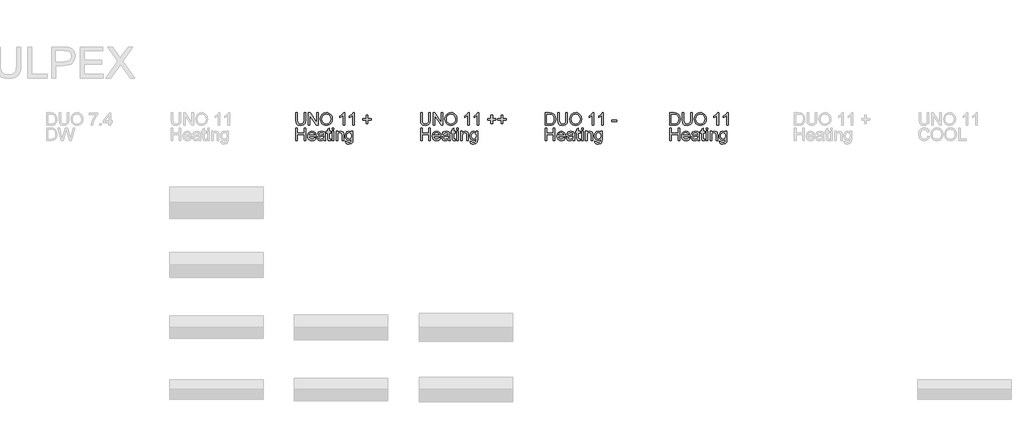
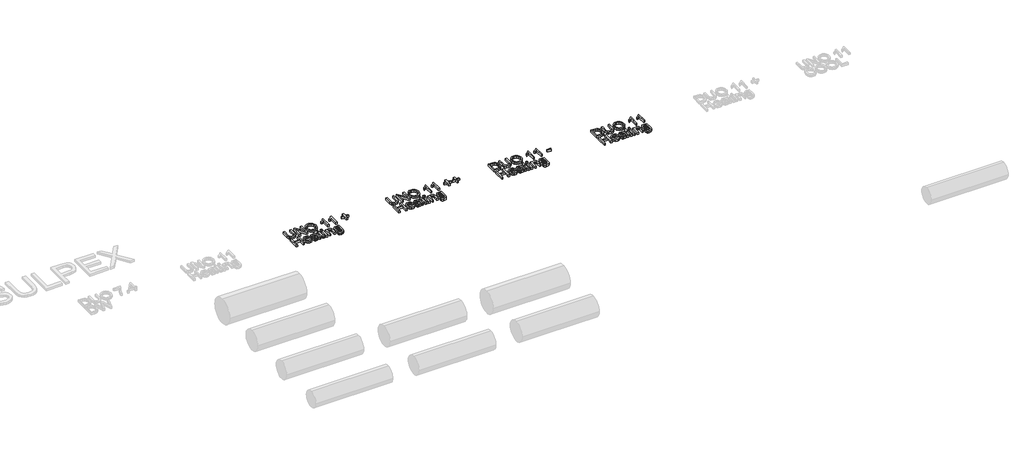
# One storey, part 35 of 44: 4 proxies.
"""IFC4 building model written with IfcOpenShell, lengths in millimetres."""

from ifc_helpers import new_model, si_unit, origin, origin_with_axes, place, context, project, spatial, polyline, outline, extrude, element, save

model = new_model("IFC4")

# Units and contexts
model_context = context("Model", 3, world=origin())
ifc_project = project(units=[si_unit("LENGTHUNIT", "METRE", prefix="MILLI")], contexts=[model_context])

# Site, building, storey
site = spatial("IfcSite", under=ifc_project)
building = spatial("IfcBuilding", under=site)
storey = spatial("IfcBuildingStorey", under=building, Name="REHAU Starting view", Elevation=0.0)

# Proxies
placement = place(None, origin())
element("IfcBuildingElementProxy", 1, Name="100", ObjectType="100", at=placement, inside=storey, context=model_context, shape_type="SweptSolid", body=[
    extrude(outline(polyline([(19076.9118625, 20222.431128), (19089.4689012, 20222.431128), (19089.4689012, 20164.477451), (19086.0598614, 20140.4547567), (19073.7726028, 20125.9847316), (19063.5086951, 20121.8000739), (19050.4734097, 20120.405188), (19027.529836, 20125.2612303), (19019.8901532, 20131.2055902), (19014.8011189, 20139.3265853), (19010.9874089, 20164.477451), (19010.9874089, 20222.431128), (19023.5444477, 20222.431128), (19023.5444477, 20164.9189094), (19026.0215198, 20145.7767829), (19034.5318566, 20136.2976902), (19049.2961874, 20132.9622268), (19062.067824, 20134.6115644), (19070.5597667, 20139.5595772), (19075.3238385, 20149.1980855), (19076.9118625, 20164.9189094), (19076.9118625, 20222.431128)])), origin_with_axes(), (0.0, 0.0, 1.0), 20.0),
    extrude(outline(polyline([(19111.4437191, 20121.9748178), (19111.4437191, 20222.431128), (19124.8836746, 20222.431128), (19177.3681726, 20142.8459897), (19177.3681726, 20222.431128), (19189.9252114, 20222.431128), (19189.9252114, 20121.9748178), (19176.4852558, 20121.9748178), (19124.0007578, 20201.5844816), (19124.0007578, 20121.9748178), (19111.4437191, 20121.9748178)])), origin_with_axes(), (0.0, 0.0, 1.0), 20.0),
    extrude(outline(polyline([(19207.1911397, 20170.8785977), (19210.5388658, 20193.0925389), (19220.5820443, 20209.8986147), (19235.9165921, 20220.4752221), (19255.1384264, 20224.0007578), (19268.3147332, 20222.3452889), (19280.1298766, 20217.3788819), (19289.9400631, 20209.4510249), (19297.1014993, 20198.9112058), (19301.479295, 20186.2683279), (19302.9385603, 20172.0312947), (19301.402653, 20157.6041891), (19296.794931, 20144.7835015), (19289.369846, 20134.2252883), (19279.3818499, 20126.5856055), (19267.667874, 20121.9502924), (19255.06485, 20120.405188), (19241.6862081, 20122.1127736), (19229.8036197, 20127.2355304), (19220.0179586, 20135.3105402), (19212.9300988, 20145.8748848), (19207.1911397, 20170.8785977)]), holes=[polyline([(19219.7481785, 20170.7559704), (19222.2589731, 20155.0412778), (19229.7913569, 20143.0667189), (19241.1129253, 20135.4883498), (19254.9912736, 20132.9622268), (19269.071957, 20135.5128753), (19280.4119195, 20143.1648208), (19287.889121, 20155.5072617), (19290.3815215, 20172.1293965), (19286.1140904, 20192.8534156), (19273.6428907, 20206.575414), (19255.2120028, 20211.4437191), (19241.7046022, 20209.0984714), (19230.2205526, 20202.0627282), (19222.366272, 20189.5455433), (19219.7481785, 20170.7559704)])]), origin_with_axes(), (0.0, 0.0, 1.0), 20.0),
    extrude(outline(polyline([(19401.8252406, 20121.9748178), (19389.2682018, 20121.9748178), (19389.2682018, 20200.2601064), (19377.3733507, 20191.7865578), (19364.1541243, 20185.4467247), (19364.1541243, 20197.3170505), (19382.5604868, 20209.0647488), (19393.7318367, 20222.431128), (19401.8252406, 20222.431128), (19401.8252406, 20121.9748178)])), origin_with_axes(), (0.0, 0.0, 1.0), 20.0),
    extrude(outline(polyline([(19478.7371031, 20121.9748178), (19466.1800643, 20121.9748178), (19466.1800643, 20200.2601064), (19454.2852131, 20191.7865578), (19441.0659868, 20185.4467247), (19441.0659868, 20197.3170505), (19459.4723492, 20209.0647488), (19470.6436992, 20222.431128), (19478.7371031, 20222.431128), (19478.7371031, 20121.9748178)])), origin_with_axes(), (0.0, 0.0, 1.0), 20.0),
    extrude(outline(polyline([(19576.0541535, 20137.6711163), (19576.0541535, 20164.3548237), (19549.3704461, 20164.3548237), (19549.3704461, 20176.9118625), (19576.0541535, 20176.9118625), (19576.0541535, 20203.5955698), (19588.6111923, 20203.5955698), (19588.6111923, 20176.9118625), (19615.2948997, 20176.9118625), (19615.2948997, 20164.3548237), (19588.6111923, 20164.3548237), (19588.6111923, 20137.6711163), (19576.0541535, 20137.6711163)])), origin_with_axes(), (0.0, 0.0, 1.0), 20.0),
    extrude(outline(polyline([(19010.9874089, 20000.0), (19010.9874089, 20100.4563101), (19023.5444477, 20100.4563101), (19023.5444477, 20059.6459342), (19076.9118625, 20059.6459342), (19076.9118625, 20100.4563101), (19089.4689012, 20100.4563101), (19089.4689012, 20000.0), (19076.9118625, 20000.0), (19076.9118625, 20047.0888954), (19023.5444477, 20047.0888954), (19023.5444477, 20000.0), (19010.9874089, 20000.0)])), origin_with_axes(), (0.0, 0.0, 1.0), 20.0),
    extrude(outline(polyline([(19161.5247213, 20021.9748178), (19173.8365055, 20020.405188), (19169.4004617, 20011.1284304), (19162.321799, 20004.1938547), (19152.7599328, 19999.8712413), (19140.8742787, 19998.4303702), (19126.1406048, 20000.9166393), (19114.803708, 20008.3754468), (19107.5748268, 20020.3224146), (19105.1651997, 20036.2731647), (19107.5993522, 20052.7604095), (19114.9018098, 20065.0905877), (19126.0854225, 20072.7793214), (19140.1630402, 20075.3422326), (19153.8022651, 20072.7854527), (19164.7007692, 20065.1151131), (19171.846877, 20052.8094604), (19174.2289129, 20036.3467411), (19174.1553365, 20032.9622268), (19117.7222385, 20032.9622268), (19119.8958079, 20023.5628418), (19124.9449883, 20016.6527916), (19132.2321175, 20012.4037546), (19141.1195333, 20010.9874089), (19153.4313175, 20013.6116338), (19161.5247213, 20021.9748178)]), holes=[polyline([(19117.7222385, 20045.5192655), (19161.6718741, 20045.5192655), (19156.6441535, 20056.8990819), (19149.3233018, 20061.3136659), (19140.1139892, 20062.7851938), (19124.6506827, 20058.088567), (19119.7854433, 20052.5979283), (19117.7222385, 20045.5192655)])]), origin_with_axes(), (0.0, 0.0, 1.0), 20.0),
    extrude(outline(polyline([(19233.8748471, 20009.4177791), (19221.697953, 20000.9074423), (19208.2457347, 19998.4303702), (19197.7519008, 19999.9202922), (19190.0110505, 20004.3900585), (19185.2377816, 20011.1774813), (19183.646692, 20019.6203731), (19186.0501877, 20029.5531869), (19192.3654953, 20036.7636741), (19201.157875, 20040.8839524), (19212.0226566, 20042.7724133), (19233.8012707, 20047.0888954), (19233.8748471, 20049.8847985), (19230.4167563, 20059.1554248), (19216.5353424, 20062.7851938), (19203.8311508, 20060.3694354), (19197.7733606, 20051.7977849), (19185.2163218, 20053.3674148), (19190.6487126, 20065.6301479), (19201.5870706, 20072.8161096), (19218.1540231, 20075.3422326), (19233.372075, 20073.1104152), (19241.968251, 20067.5063461), (19245.8187492, 20058.9837466), (19246.4318858, 20047.9963376), (19246.4318858, 20032.3736156), (19247.069548, 20010.5582133), (19249.5711455, 20000.0), (19237.0141068, 20000.0), (19233.8748471, 20009.4177791)]), holes=[polyline([(19233.8748471, 20034.5318566), (19213.6168119, 20030.6813584), (19202.8133439, 20028.6457447), (19197.9205134, 20025.3348067), (19196.2037308, 20020.5032899), (19199.9438644, 20013.7097357), (19210.9190106, 20010.9874089), (19223.6232021, 20013.9917785), (19231.8147079, 20021.2635793), (19233.8012707, 20030.975664), (19233.8748471, 20034.5318566)])]), origin_with_axes(), (0.0, 0.0, 1.0), 20.0),
    extrude(outline(polyline([(19290.3815215, 20010.4723741), (19291.9511514, 19999.632118), (19282.5578978, 19998.4303702), (19272.0364727, 20000.5150348), (19266.7880229, 20005.9842138), (19265.267444, 20020.2335097), (19265.267444, 20061.215564), (19255.8496649, 20061.215564), (19255.8496649, 20073.7726028), (19265.267444, 20073.7726028), (19265.267444, 20091.7007187), (19277.8244828, 20099.082884), (19277.8244828, 20073.7726028), (19290.3815215, 20073.7726028), (19290.3815215, 20061.215564), (19277.8244828, 20061.215564), (19277.8244828, 20020.6013917), (19278.4866703, 20014.1266686), (19280.6326487, 20011.8335375), (19284.9123425, 20010.9874089), (19290.3815215, 20010.4723741)])), origin_with_axes(), (0.0, 0.0, 1.0), 20.0),
    extrude(outline(polyline([(19302.9385603, 20087.8992714), (19302.9385603, 20100.4563101), (19315.4955991, 20100.4563101), (19315.4955991, 20087.8992714), (19302.9385603, 20087.8992714)])), origin_with_axes(), (0.0, 0.0, 1.0), 20.0),
    extrude(outline(polyline([(19302.9385603, 20000.0), (19302.9385603, 20073.7726028), (19315.4955991, 20073.7726028), (19315.4955991, 20000.0), (19302.9385603, 20000.0)])), origin_with_axes(), (0.0, 0.0, 1.0), 20.0),
    extrude(outline(polyline([(19334.3311572, 20000.0), (19334.3311572, 20073.7726028), (19346.888196, 20073.7726028), (19346.888196, 20063.4719069), (19356.4899161, 20072.3746512), (19369.5987778, 20075.3422326), (19381.4568408, 20072.9509996), (19389.5502447, 20066.6724803), (19393.3149038, 20057.4386422), (19393.9770914, 20045.2985363), (19393.9770914, 20000.0), (19381.4200526, 20000.0), (19381.4200526, 20043.6062792), (19379.9730501, 20054.7163154), (19374.8594904, 20060.5901646), (19366.2387889, 20062.7851938), (19352.6148924, 20057.8555751), (19348.3198701, 20050.712533), (19346.888196, 20039.1426443), (19346.888196, 20000.0), (19334.3311572, 20000.0)])), origin_with_axes(), (0.0, 0.0, 1.0), 20.0),
    extrude(outline(polyline([(19408.10376, 19993.7214806), (19420.6607988, 19992.1518508), (19424.7320262, 19985.5299749), (19436.9211829, 19982.7340717), (19449.7725273, 19985.8978569), (19455.9038939, 19994.7760757), (19456.7622852, 20009.4177791), (19447.9208546, 20002.3544448), (19437.1419121, 20000.0), (19424.1955316, 20002.7407209), (19414.5416949, 20010.9628835), (19408.5360213, 20023.0171502), (19406.5341301, 20037.2541834), (19410.127111, 20056.7151409), (19420.5259087, 20070.4861903), (19436.5287755, 20075.3422326), (19447.7307822, 20072.5953804), (19456.7622852, 20064.3548237), (19456.7622852, 20073.7726028), (19469.319324, 20073.7726028), (19469.319324, 20010.0799667), (19465.8857587, 19985.6893904), (19455.0087144, 19974.3463622), (19436.6759283, 19970.1770329), (19424.9926092, 19971.6454952), (19415.7924937, 19976.0508821), (19409.8910533, 19983.4054563), (19408.10376, 19993.7214806)]), holes=[polyline([(19419.0911689, 20038.1125747), (19420.4308725, 20026.5948026), (19424.4499833, 20018.6761426), (19430.4924451, 20014.0868147), (19437.9022016, 20012.5570388), (19445.2567758, 20014.0776177), (19451.3298944, 20018.6393544), (19455.4041875, 20026.4568468), (19456.7622852, 20037.7446927), (19455.3643336, 20048.6309341), (19451.1704789, 20056.4698863), (19445.0084555, 20061.2063669), (19437.7059979, 20062.7851938), (19430.5353646, 20061.2308924), (19424.5235597, 20056.5679881), (19420.4492666, 20048.8455319), (19419.0911689, 20038.1125747)])]), origin_with_axes(), (0.0, 0.0, 1.0), 20.0),
])
element("IfcBuildingElementProxy", 2, Name="100", ObjectType="100", at=placement, inside=storey, context=model_context, shape_type="SweptSolid", body=[
    extrude(outline(polyline([(20076.9118625, 20222.431128), (20089.4689012, 20222.431128), (20089.4689012, 20164.477451), (20086.0598614, 20140.4547567), (20073.7726028, 20125.9847316), (20063.5086951, 20121.8000739), (20050.4734097, 20120.405188), (20027.529836, 20125.2612303), (20019.8901532, 20131.2055902), (20014.8011189, 20139.3265853), (20010.9874089, 20164.477451), (20010.9874089, 20222.431128), (20023.5444477, 20222.431128), (20023.5444477, 20164.9189094), (20026.0215198, 20145.7767829), (20034.5318566, 20136.2976902), (20049.2961874, 20132.9622268), (20062.067824, 20134.6115644), (20070.5597667, 20139.5595772), (20075.3238385, 20149.1980855), (20076.9118625, 20164.9189094), (20076.9118625, 20222.431128)])), origin_with_axes(), (0.0, 0.0, 1.0), 20.0),
    extrude(outline(polyline([(20111.4437191, 20121.9748178), (20111.4437191, 20222.431128), (20124.8836746, 20222.431128), (20177.3681726, 20142.8459897), (20177.3681726, 20222.431128), (20189.9252114, 20222.431128), (20189.9252114, 20121.9748178), (20176.4852558, 20121.9748178), (20124.0007578, 20201.5844816), (20124.0007578, 20121.9748178), (20111.4437191, 20121.9748178)])), origin_with_axes(), (0.0, 0.0, 1.0), 20.0),
    extrude(outline(polyline([(20207.1911397, 20170.8785977), (20210.5388658, 20193.0925389), (20220.5820443, 20209.8986147), (20235.9165921, 20220.4752221), (20255.1384264, 20224.0007578), (20268.3147332, 20222.3452889), (20280.1298766, 20217.3788819), (20289.9400631, 20209.4510249), (20297.1014993, 20198.9112058), (20301.479295, 20186.2683279), (20302.9385603, 20172.0312947), (20301.402653, 20157.6041891), (20296.794931, 20144.7835015), (20289.369846, 20134.2252883), (20279.3818499, 20126.5856055), (20267.667874, 20121.9502924), (20255.06485, 20120.405188), (20241.6862081, 20122.1127736), (20229.8036197, 20127.2355304), (20220.0179586, 20135.3105402), (20212.9300988, 20145.8748848), (20207.1911397, 20170.8785977)]), holes=[polyline([(20219.7481785, 20170.7559704), (20222.2589731, 20155.0412778), (20229.7913569, 20143.0667189), (20241.1129253, 20135.4883498), (20254.9912736, 20132.9622268), (20269.071957, 20135.5128753), (20280.4119195, 20143.1648208), (20287.889121, 20155.5072617), (20290.3815215, 20172.1293965), (20286.1140904, 20192.8534156), (20273.6428907, 20206.575414), (20255.2120028, 20211.4437191), (20241.7046022, 20209.0984714), (20230.2205526, 20202.0627282), (20222.366272, 20189.5455433), (20219.7481785, 20170.7559704)])]), origin_with_axes(), (0.0, 0.0, 1.0), 20.0),
    extrude(outline(polyline([(20401.8252406, 20121.9748178), (20389.2682018, 20121.9748178), (20389.2682018, 20200.2601064), (20377.3733507, 20191.7865578), (20364.1541243, 20185.4467247), (20364.1541243, 20197.3170505), (20382.5604868, 20209.0647488), (20393.7318367, 20222.431128), (20401.8252406, 20222.431128), (20401.8252406, 20121.9748178)])), origin_with_axes(), (0.0, 0.0, 1.0), 20.0),
    extrude(outline(polyline([(20478.7371031, 20121.9748178), (20466.1800643, 20121.9748178), (20466.1800643, 20200.2601064), (20454.2852131, 20191.7865578), (20441.0659868, 20185.4467247), (20441.0659868, 20197.3170505), (20459.4723492, 20209.0647488), (20470.6436992, 20222.431128), (20478.7371031, 20222.431128), (20478.7371031, 20121.9748178)])), origin_with_axes(), (0.0, 0.0, 1.0), 20.0),
    extrude(outline(polyline([(20576.0541535, 20137.6711163), (20576.0541535, 20164.3548237), (20549.3704461, 20164.3548237), (20549.3704461, 20176.9118625), (20576.0541535, 20176.9118625), (20576.0541535, 20203.5955698), (20588.6111923, 20203.5955698), (20588.6111923, 20176.9118625), (20615.2948997, 20176.9118625), (20615.2948997, 20164.3548237), (20588.6111923, 20164.3548237), (20588.6111923, 20137.6711163), (20576.0541535, 20137.6711163)])), origin_with_axes(), (0.0, 0.0, 1.0), 20.0),
    extrude(outline(polyline([(20657.6749055, 20137.6711163), (20657.6749055, 20164.3548237), (20630.9911981, 20164.3548237), (20630.9911981, 20176.9118625), (20657.6749055, 20176.9118625), (20657.6749055, 20203.5955698), (20670.2319443, 20203.5955698), (20670.2319443, 20176.9118625), (20696.9156517, 20176.9118625), (20696.9156517, 20164.3548237), (20670.2319443, 20164.3548237), (20670.2319443, 20137.6711163), (20657.6749055, 20137.6711163)])), origin_with_axes(), (0.0, 0.0, 1.0), 20.0),
    extrude(outline(polyline([(20010.9874089, 20000.0), (20010.9874089, 20100.4563101), (20023.5444477, 20100.4563101), (20023.5444477, 20059.6459342), (20076.9118625, 20059.6459342), (20076.9118625, 20100.4563101), (20089.4689012, 20100.4563101), (20089.4689012, 20000.0), (20076.9118625, 20000.0), (20076.9118625, 20047.0888954), (20023.5444477, 20047.0888954), (20023.5444477, 20000.0), (20010.9874089, 20000.0)])), origin_with_axes(), (0.0, 0.0, 1.0), 20.0),
    extrude(outline(polyline([(20161.5247213, 20021.9748178), (20173.8365055, 20020.405188), (20169.4004617, 20011.1284304), (20162.321799, 20004.1938547), (20152.7599328, 19999.8712413), (20140.8742787, 19998.4303702), (20126.1406048, 20000.9166393), (20114.803708, 20008.3754468), (20107.5748268, 20020.3224146), (20105.1651997, 20036.2731647), (20107.5993522, 20052.7604095), (20114.9018098, 20065.0905877), (20126.0854225, 20072.7793214), (20140.1630402, 20075.3422326), (20153.8022651, 20072.7854527), (20164.7007692, 20065.1151131), (20171.846877, 20052.8094604), (20174.2289129, 20036.3467411), (20174.1553365, 20032.9622268), (20117.7222385, 20032.9622268), (20119.8958079, 20023.5628418), (20124.9449883, 20016.6527916), (20132.2321175, 20012.4037546), (20141.1195333, 20010.9874089), (20153.4313175, 20013.6116338), (20161.5247213, 20021.9748178)]), holes=[polyline([(20117.7222385, 20045.5192655), (20161.6718741, 20045.5192655), (20156.6441535, 20056.8990819), (20149.3233018, 20061.3136659), (20140.1139892, 20062.7851938), (20124.6506827, 20058.088567), (20119.7854433, 20052.5979283), (20117.7222385, 20045.5192655)])]), origin_with_axes(), (0.0, 0.0, 1.0), 20.0),
    extrude(outline(polyline([(20233.8748471, 20009.4177791), (20221.697953, 20000.9074423), (20208.2457347, 19998.4303702), (20197.7519008, 19999.9202922), (20190.0110505, 20004.3900585), (20185.2377816, 20011.1774813), (20183.646692, 20019.6203731), (20186.0501877, 20029.5531869), (20192.3654953, 20036.7636741), (20201.157875, 20040.8839524), (20212.0226566, 20042.7724133), (20233.8012707, 20047.0888954), (20233.8748471, 20049.8847985), (20230.4167563, 20059.1554248), (20216.5353424, 20062.7851938), (20203.8311508, 20060.3694354), (20197.7733606, 20051.7977849), (20185.2163218, 20053.3674148), (20190.6487126, 20065.6301479), (20201.5870706, 20072.8161096), (20218.1540231, 20075.3422326), (20233.372075, 20073.1104152), (20241.968251, 20067.5063461), (20245.8187492, 20058.9837466), (20246.4318858, 20047.9963376), (20246.4318858, 20032.3736156), (20247.069548, 20010.5582133), (20249.5711455, 20000.0), (20237.0141068, 20000.0), (20233.8748471, 20009.4177791)]), holes=[polyline([(20233.8748471, 20034.5318566), (20213.6168119, 20030.6813584), (20202.8133439, 20028.6457447), (20197.9205134, 20025.3348067), (20196.2037308, 20020.5032899), (20199.9438644, 20013.7097357), (20210.9190106, 20010.9874089), (20223.6232021, 20013.9917785), (20231.8147079, 20021.2635793), (20233.8012707, 20030.975664), (20233.8748471, 20034.5318566)])]), origin_with_axes(), (0.0, 0.0, 1.0), 20.0),
    extrude(outline(polyline([(20290.3815215, 20010.4723741), (20291.9511514, 19999.632118), (20282.5578978, 19998.4303702), (20272.0364727, 20000.5150348), (20266.7880229, 20005.9842138), (20265.267444, 20020.2335097), (20265.267444, 20061.215564), (20255.8496649, 20061.215564), (20255.8496649, 20073.7726028), (20265.267444, 20073.7726028), (20265.267444, 20091.7007187), (20277.8244828, 20099.082884), (20277.8244828, 20073.7726028), (20290.3815215, 20073.7726028), (20290.3815215, 20061.215564), (20277.8244828, 20061.215564), (20277.8244828, 20020.6013917), (20278.4866703, 20014.1266686), (20280.6326487, 20011.8335375), (20284.9123425, 20010.9874089), (20290.3815215, 20010.4723741)])), origin_with_axes(), (0.0, 0.0, 1.0), 20.0),
    extrude(outline(polyline([(20302.9385603, 20087.8992714), (20302.9385603, 20100.4563101), (20315.4955991, 20100.4563101), (20315.4955991, 20087.8992714), (20302.9385603, 20087.8992714)])), origin_with_axes(), (0.0, 0.0, 1.0), 20.0),
    extrude(outline(polyline([(20302.9385603, 20000.0), (20302.9385603, 20073.7726028), (20315.4955991, 20073.7726028), (20315.4955991, 20000.0), (20302.9385603, 20000.0)])), origin_with_axes(), (0.0, 0.0, 1.0), 20.0),
    extrude(outline(polyline([(20334.3311572, 20000.0), (20334.3311572, 20073.7726028), (20346.888196, 20073.7726028), (20346.888196, 20063.4719069), (20356.4899161, 20072.3746512), (20369.5987778, 20075.3422326), (20381.4568408, 20072.9509996), (20389.5502447, 20066.6724803), (20393.3149038, 20057.4386422), (20393.9770914, 20045.2985363), (20393.9770914, 20000.0), (20381.4200526, 20000.0), (20381.4200526, 20043.6062792), (20379.9730501, 20054.7163154), (20374.8594904, 20060.5901646), (20366.2387889, 20062.7851938), (20352.6148924, 20057.8555751), (20348.3198701, 20050.712533), (20346.888196, 20039.1426443), (20346.888196, 20000.0), (20334.3311572, 20000.0)])), origin_with_axes(), (0.0, 0.0, 1.0), 20.0),
    extrude(outline(polyline([(20408.10376, 19993.7214806), (20420.6607988, 19992.1518508), (20424.7320262, 19985.5299749), (20436.9211829, 19982.7340717), (20449.7725273, 19985.8978569), (20455.9038939, 19994.7760757), (20456.7622852, 20009.4177791), (20447.9208546, 20002.3544448), (20437.1419121, 20000.0), (20424.1955316, 20002.7407209), (20414.5416949, 20010.9628835), (20408.5360213, 20023.0171502), (20406.5341301, 20037.2541834), (20410.127111, 20056.7151409), (20420.5259087, 20070.4861903), (20436.5287755, 20075.3422326), (20447.7307822, 20072.5953804), (20456.7622852, 20064.3548237), (20456.7622852, 20073.7726028), (20469.319324, 20073.7726028), (20469.319324, 20010.0799667), (20465.8857587, 19985.6893904), (20455.0087144, 19974.3463622), (20436.6759283, 19970.1770329), (20424.9926092, 19971.6454952), (20415.7924937, 19976.0508821), (20409.8910533, 19983.4054563), (20408.10376, 19993.7214806)]), holes=[polyline([(20419.0911689, 20038.1125747), (20420.4308725, 20026.5948026), (20424.4499833, 20018.6761426), (20430.4924451, 20014.0868147), (20437.9022016, 20012.5570388), (20445.2567758, 20014.0776177), (20451.3298944, 20018.6393544), (20455.4041875, 20026.4568468), (20456.7622852, 20037.7446927), (20455.3643336, 20048.6309341), (20451.1704789, 20056.4698863), (20445.0084555, 20061.2063669), (20437.7059979, 20062.7851938), (20430.5353646, 20061.2308924), (20424.5235597, 20056.5679881), (20420.4492666, 20048.8455319), (20419.0911689, 20038.1125747)])]), origin_with_axes(), (0.0, 0.0, 1.0), 20.0),
])
element("IfcBuildingElementProxy", 3, Name="100", ObjectType="100", at=placement, inside=storey, context=model_context, shape_type="SweptSolid", body=[
    extrude(outline(polyline([(22010.9874089, 20121.9748178), (22010.9874089, 20222.431128), (22045.6418929, 20222.431128), (22063.5700088, 20220.9841255), (22078.3343395, 20213.7981638), (22090.2291907, 20196.6303374), (22094.1777908, 20172.7425332), (22091.5045149, 20152.4722352), (22084.6373844, 20137.8427946), (22075.4648599, 20128.7315838), (22063.4596442, 20123.6916005), (22047.3096246, 20121.9748178), (22010.9874089, 20121.9748178)]), holes=[polyline([(22023.5444477, 20134.5318566), (22045.7645202, 20134.5318566), (22061.9268025, 20136.3467411), (22071.2464797, 20141.4725636), (22078.8861625, 20153.9437632), (22081.620752, 20172.9387369), (22080.2810484, 20186.6239471), (22076.2619376, 20196.7284393), (22063.2266522, 20207.863001), (22045.4211637, 20209.8740892), (22023.5444477, 20209.8740892), (22023.5444477, 20134.5318566)])]), origin_with_axes(), (0.0, 0.0, 1.0), 20.0),
    extrude(outline(polyline([(22177.3681726, 20222.431128), (22189.9252114, 20222.431128), (22189.9252114, 20164.477451), (22186.5161716, 20140.4547567), (22174.2289129, 20125.9847316), (22163.9650053, 20121.8000739), (22150.9297199, 20120.405188), (22127.9861461, 20125.2612303), (22120.3464634, 20131.2055902), (22115.2574291, 20139.3265853), (22111.4437191, 20164.477451), (22111.4437191, 20222.431128), (22124.0007578, 20222.431128), (22124.0007578, 20164.9189094), (22126.4778299, 20145.7767829), (22134.9881668, 20136.2976902), (22149.7524975, 20132.9622268), (22162.5241341, 20134.6115644), (22171.0160768, 20139.5595772), (22175.7801487, 20149.1980855), (22177.3681726, 20164.9189094), (22177.3681726, 20222.431128)])), origin_with_axes(), (0.0, 0.0, 1.0), 20.0),
    extrude(outline(polyline([(22207.1911397, 20170.8785977), (22210.5388658, 20193.0925389), (22220.5820443, 20209.8986147), (22235.9165921, 20220.4752221), (22255.1384264, 20224.0007578), (22268.3147332, 20222.3452889), (22280.1298766, 20217.3788819), (22289.9400631, 20209.4510249), (22297.1014993, 20198.9112058), (22301.479295, 20186.2683279), (22302.9385603, 20172.0312947), (22301.402653, 20157.6041891), (22296.794931, 20144.7835015), (22289.369846, 20134.2252883), (22279.3818499, 20126.5856055), (22267.667874, 20121.9502924), (22255.06485, 20120.405188), (22241.6862081, 20122.1127736), (22229.8036197, 20127.2355304), (22220.0179586, 20135.3105402), (22212.9300988, 20145.8748848), (22207.1911397, 20170.8785977)]), holes=[polyline([(22219.7481785, 20170.7559704), (22222.2589731, 20155.0412778), (22229.7913569, 20143.0667189), (22241.1129253, 20135.4883498), (22254.9912736, 20132.9622268), (22269.071957, 20135.5128753), (22280.4119195, 20143.1648208), (22287.889121, 20155.5072617), (22290.3815215, 20172.1293965), (22286.1140904, 20192.8534156), (22273.6428907, 20206.575414), (22255.2120028, 20211.4437191), (22241.7046022, 20209.0984714), (22230.2205526, 20202.0627282), (22222.366272, 20189.5455433), (22219.7481785, 20170.7559704)])]), origin_with_axes(), (0.0, 0.0, 1.0), 20.0),
    extrude(outline(polyline([(22401.8252406, 20121.9748178), (22389.2682018, 20121.9748178), (22389.2682018, 20200.2601064), (22377.3733507, 20191.7865578), (22364.1541243, 20185.4467247), (22364.1541243, 20197.3170505), (22382.5604868, 20209.0647488), (22393.7318367, 20222.431128), (22401.8252406, 20222.431128), (22401.8252406, 20121.9748178)])), origin_with_axes(), (0.0, 0.0, 1.0), 20.0),
    extrude(outline(polyline([(22478.7371031, 20121.9748178), (22466.1800643, 20121.9748178), (22466.1800643, 20200.2601064), (22454.2852131, 20191.7865578), (22441.0659868, 20185.4467247), (22441.0659868, 20197.3170505), (22459.4723492, 20209.0647488), (22470.6436992, 20222.431128), (22478.7371031, 20222.431128), (22478.7371031, 20121.9748178)])), origin_with_axes(), (0.0, 0.0, 1.0), 20.0),
    extrude(outline(polyline([(22010.9874089, 20000.0), (22010.9874089, 20100.4563101), (22023.5444477, 20100.4563101), (22023.5444477, 20059.6459342), (22076.9118625, 20059.6459342), (22076.9118625, 20100.4563101), (22089.4689012, 20100.4563101), (22089.4689012, 20000.0), (22076.9118625, 20000.0), (22076.9118625, 20047.0888954), (22023.5444477, 20047.0888954), (22023.5444477, 20000.0), (22010.9874089, 20000.0)])), origin_with_axes(), (0.0, 0.0, 1.0), 20.0),
    extrude(outline(polyline([(22161.5247213, 20021.9748178), (22173.8365055, 20020.405188), (22169.4004617, 20011.1284304), (22162.321799, 20004.1938547), (22152.7599328, 19999.8712413), (22140.8742787, 19998.4303702), (22126.1406048, 20000.9166393), (22114.803708, 20008.3754468), (22107.5748268, 20020.3224146), (22105.1651997, 20036.2731647), (22107.5993522, 20052.7604095), (22114.9018098, 20065.0905877), (22126.0854225, 20072.7793214), (22140.1630402, 20075.3422326), (22153.8022651, 20072.7854527), (22164.7007692, 20065.1151131), (22171.846877, 20052.8094604), (22174.2289129, 20036.3467411), (22174.1553365, 20032.9622268), (22117.7222385, 20032.9622268), (22119.8958079, 20023.5628418), (22124.9449883, 20016.6527916), (22132.2321175, 20012.4037546), (22141.1195333, 20010.9874089), (22153.4313175, 20013.6116338), (22161.5247213, 20021.9748178)]), holes=[polyline([(22117.7222385, 20045.5192655), (22161.6718741, 20045.5192655), (22156.6441535, 20056.8990819), (22149.3233018, 20061.3136659), (22140.1139892, 20062.7851938), (22124.6506827, 20058.088567), (22119.7854433, 20052.5979283), (22117.7222385, 20045.5192655)])]), origin_with_axes(), (0.0, 0.0, 1.0), 20.0),
    extrude(outline(polyline([(22233.8748471, 20009.4177791), (22221.697953, 20000.9074423), (22208.2457347, 19998.4303702), (22197.7519008, 19999.9202922), (22190.0110505, 20004.3900585), (22185.2377816, 20011.1774813), (22183.646692, 20019.6203731), (22186.0501877, 20029.5531869), (22192.3654953, 20036.7636741), (22201.157875, 20040.8839524), (22212.0226566, 20042.7724133), (22233.8012707, 20047.0888954), (22233.8748471, 20049.8847985), (22230.4167563, 20059.1554248), (22216.5353424, 20062.7851938), (22203.8311508, 20060.3694354), (22197.7733606, 20051.7977849), (22185.2163218, 20053.3674148), (22190.6487126, 20065.6301479), (22201.5870706, 20072.8161096), (22218.1540231, 20075.3422326), (22233.372075, 20073.1104152), (22241.968251, 20067.5063461), (22245.8187492, 20058.9837466), (22246.4318858, 20047.9963376), (22246.4318858, 20032.3736156), (22247.069548, 20010.5582133), (22249.5711455, 20000.0), (22237.0141068, 20000.0), (22233.8748471, 20009.4177791)]), holes=[polyline([(22233.8748471, 20034.5318566), (22213.6168119, 20030.6813584), (22202.8133439, 20028.6457447), (22197.9205134, 20025.3348067), (22196.2037308, 20020.5032899), (22199.9438644, 20013.7097357), (22210.9190106, 20010.9874089), (22223.6232021, 20013.9917785), (22231.8147079, 20021.2635793), (22233.8012707, 20030.975664), (22233.8748471, 20034.5318566)])]), origin_with_axes(), (0.0, 0.0, 1.0), 20.0),
    extrude(outline(polyline([(22290.3815215, 20010.4723741), (22291.9511514, 19999.632118), (22282.5578978, 19998.4303702), (22272.0364727, 20000.5150348), (22266.7880229, 20005.9842138), (22265.267444, 20020.2335097), (22265.267444, 20061.215564), (22255.8496649, 20061.215564), (22255.8496649, 20073.7726028), (22265.267444, 20073.7726028), (22265.267444, 20091.7007187), (22277.8244828, 20099.082884), (22277.8244828, 20073.7726028), (22290.3815215, 20073.7726028), (22290.3815215, 20061.215564), (22277.8244828, 20061.215564), (22277.8244828, 20020.6013917), (22278.4866703, 20014.1266686), (22280.6326487, 20011.8335375), (22284.9123425, 20010.9874089), (22290.3815215, 20010.4723741)])), origin_with_axes(), (0.0, 0.0, 1.0), 20.0),
    extrude(outline(polyline([(22302.9385603, 20087.8992714), (22302.9385603, 20100.4563101), (22315.4955991, 20100.4563101), (22315.4955991, 20087.8992714), (22302.9385603, 20087.8992714)])), origin_with_axes(), (0.0, 0.0, 1.0), 20.0),
    extrude(outline(polyline([(22302.9385603, 20000.0), (22302.9385603, 20073.7726028), (22315.4955991, 20073.7726028), (22315.4955991, 20000.0), (22302.9385603, 20000.0)])), origin_with_axes(), (0.0, 0.0, 1.0), 20.0),
    extrude(outline(polyline([(22334.3311572, 20000.0), (22334.3311572, 20073.7726028), (22346.888196, 20073.7726028), (22346.888196, 20063.4719069), (22356.4899161, 20072.3746512), (22369.5987778, 20075.3422326), (22381.4568408, 20072.9509996), (22389.5502447, 20066.6724803), (22393.3149038, 20057.4386422), (22393.9770914, 20045.2985363), (22393.9770914, 20000.0), (22381.4200526, 20000.0), (22381.4200526, 20043.6062792), (22379.9730501, 20054.7163154), (22374.8594904, 20060.5901646), (22366.2387889, 20062.7851938), (22352.6148924, 20057.8555751), (22348.3198701, 20050.712533), (22346.888196, 20039.1426443), (22346.888196, 20000.0), (22334.3311572, 20000.0)])), origin_with_axes(), (0.0, 0.0, 1.0), 20.0),
    extrude(outline(polyline([(22408.10376, 19993.7214806), (22420.6607988, 19992.1518508), (22424.7320262, 19985.5299749), (22436.9211829, 19982.7340717), (22449.7725273, 19985.8978569), (22455.9038939, 19994.7760757), (22456.7622852, 20009.4177791), (22447.9208546, 20002.3544448), (22437.1419121, 20000.0), (22424.1955316, 20002.7407209), (22414.5416949, 20010.9628835), (22408.5360213, 20023.0171502), (22406.5341301, 20037.2541834), (22410.127111, 20056.7151409), (22420.5259087, 20070.4861903), (22436.5287755, 20075.3422326), (22447.7307822, 20072.5953804), (22456.7622852, 20064.3548237), (22456.7622852, 20073.7726028), (22469.319324, 20073.7726028), (22469.319324, 20010.0799667), (22465.8857587, 19985.6893904), (22455.0087144, 19974.3463622), (22436.6759283, 19970.1770329), (22424.9926092, 19971.6454952), (22415.7924937, 19976.0508821), (22409.8910533, 19983.4054563), (22408.10376, 19993.7214806)]), holes=[polyline([(22419.0911689, 20038.1125747), (22420.4308725, 20026.5948026), (22424.4499833, 20018.6761426), (22430.4924451, 20014.0868147), (22437.9022016, 20012.5570388), (22445.2567758, 20014.0776177), (22451.3298944, 20018.6393544), (22455.4041875, 20026.4568468), (22456.7622852, 20037.7446927), (22455.3643336, 20048.6309341), (22451.1704789, 20056.4698863), (22445.0084555, 20061.2063669), (22437.7059979, 20062.7851938), (22430.5353646, 20061.2308924), (22424.5235597, 20056.5679881), (22420.4492666, 20048.8455319), (22419.0911689, 20038.1125747)])]), origin_with_axes(), (0.0, 0.0, 1.0), 20.0),
])
element("IfcBuildingElementProxy", 4, Name="100", ObjectType="100", at=placement, inside=storey, context=model_context, shape_type="SweptSolid", body=[
    extrude(outline(polyline([(21010.9874089, 20121.9748178), (21010.9874089, 20222.431128), (21045.6418929, 20222.431128), (21063.5700088, 20220.9841255), (21078.3343395, 20213.7981638), (21090.2291907, 20196.6303374), (21094.1777908, 20172.7425332), (21091.5045149, 20152.4722352), (21084.6373844, 20137.8427946), (21075.4648599, 20128.7315838), (21063.4596442, 20123.6916005), (21047.3096246, 20121.9748178), (21010.9874089, 20121.9748178)]), holes=[polyline([(21023.5444477, 20134.5318566), (21045.7645202, 20134.5318566), (21061.9268025, 20136.3467411), (21071.2464797, 20141.4725636), (21078.8861625, 20153.9437632), (21081.620752, 20172.9387369), (21080.2810484, 20186.6239471), (21076.2619376, 20196.7284393), (21063.2266522, 20207.863001), (21045.4211637, 20209.8740892), (21023.5444477, 20209.8740892), (21023.5444477, 20134.5318566)])]), origin_with_axes(), (0.0, 0.0, 1.0), 20.0),
    extrude(outline(polyline([(21177.3681726, 20222.431128), (21189.9252114, 20222.431128), (21189.9252114, 20164.477451), (21186.5161716, 20140.4547567), (21174.2289129, 20125.9847316), (21163.9650053, 20121.8000739), (21150.9297199, 20120.405188), (21127.9861461, 20125.2612303), (21120.3464634, 20131.2055902), (21115.2574291, 20139.3265853), (21111.4437191, 20164.477451), (21111.4437191, 20222.431128), (21124.0007578, 20222.431128), (21124.0007578, 20164.9189094), (21126.4778299, 20145.7767829), (21134.9881668, 20136.2976902), (21149.7524975, 20132.9622268), (21162.5241341, 20134.6115644), (21171.0160768, 20139.5595772), (21175.7801487, 20149.1980855), (21177.3681726, 20164.9189094), (21177.3681726, 20222.431128)])), origin_with_axes(), (0.0, 0.0, 1.0), 20.0),
    extrude(outline(polyline([(21207.1911397, 20170.8785977), (21210.5388658, 20193.0925389), (21220.5820443, 20209.8986147), (21235.9165921, 20220.4752221), (21255.1384264, 20224.0007578), (21268.3147332, 20222.3452889), (21280.1298766, 20217.3788819), (21289.9400631, 20209.4510249), (21297.1014993, 20198.9112058), (21301.479295, 20186.2683279), (21302.9385603, 20172.0312947), (21301.402653, 20157.6041891), (21296.794931, 20144.7835015), (21289.369846, 20134.2252883), (21279.3818499, 20126.5856055), (21267.667874, 20121.9502924), (21255.06485, 20120.405188), (21241.6862081, 20122.1127736), (21229.8036197, 20127.2355304), (21220.0179586, 20135.3105402), (21212.9300988, 20145.8748848), (21207.1911397, 20170.8785977)]), holes=[polyline([(21219.7481785, 20170.7559704), (21222.2589731, 20155.0412778), (21229.7913569, 20143.0667189), (21241.1129253, 20135.4883498), (21254.9912736, 20132.9622268), (21269.071957, 20135.5128753), (21280.4119195, 20143.1648208), (21287.889121, 20155.5072617), (21290.3815215, 20172.1293965), (21286.1140904, 20192.8534156), (21273.6428907, 20206.575414), (21255.2120028, 20211.4437191), (21241.7046022, 20209.0984714), (21230.2205526, 20202.0627282), (21222.366272, 20189.5455433), (21219.7481785, 20170.7559704)])]), origin_with_axes(), (0.0, 0.0, 1.0), 20.0),
    extrude(outline(polyline([(21401.8252406, 20121.9748178), (21389.2682018, 20121.9748178), (21389.2682018, 20200.2601064), (21377.3733507, 20191.7865578), (21364.1541243, 20185.4467247), (21364.1541243, 20197.3170505), (21382.5604868, 20209.0647488), (21393.7318367, 20222.431128), (21401.8252406, 20222.431128), (21401.8252406, 20121.9748178)])), origin_with_axes(), (0.0, 0.0, 1.0), 20.0),
    extrude(outline(polyline([(21478.7371031, 20121.9748178), (21466.1800643, 20121.9748178), (21466.1800643, 20200.2601064), (21454.2852131, 20191.7865578), (21441.0659868, 20185.4467247), (21441.0659868, 20197.3170505), (21459.4723492, 20209.0647488), (21470.6436992, 20222.431128), (21478.7371031, 20222.431128), (21478.7371031, 20121.9748178)])), origin_with_axes(), (0.0, 0.0, 1.0), 20.0),
    extrude(outline(polyline([(21544.6615566, 20151.7977849), (21544.6615566, 20164.3548237), (21583.9023027, 20164.3548237), (21583.9023027, 20151.7977849), (21544.6615566, 20151.7977849)])), origin_with_axes(), (0.0, 0.0, 1.0), 20.0),
    extrude(outline(polyline([(21010.9874089, 20000.0), (21010.9874089, 20100.4563101), (21023.5444477, 20100.4563101), (21023.5444477, 20059.6459342), (21076.9118625, 20059.6459342), (21076.9118625, 20100.4563101), (21089.4689012, 20100.4563101), (21089.4689012, 20000.0), (21076.9118625, 20000.0), (21076.9118625, 20047.0888954), (21023.5444477, 20047.0888954), (21023.5444477, 20000.0), (21010.9874089, 20000.0)])), origin_with_axes(), (0.0, 0.0, 1.0), 20.0),
    extrude(outline(polyline([(21161.5247213, 20021.9748178), (21173.8365055, 20020.405188), (21169.4004617, 20011.1284304), (21162.321799, 20004.1938547), (21152.7599328, 19999.8712413), (21140.8742787, 19998.4303702), (21126.1406048, 20000.9166393), (21114.803708, 20008.3754468), (21107.5748268, 20020.3224146), (21105.1651997, 20036.2731647), (21107.5993522, 20052.7604095), (21114.9018098, 20065.0905877), (21126.0854225, 20072.7793214), (21140.1630402, 20075.3422326), (21153.8022651, 20072.7854527), (21164.7007692, 20065.1151131), (21171.846877, 20052.8094604), (21174.2289129, 20036.3467411), (21174.1553365, 20032.9622268), (21117.7222385, 20032.9622268), (21119.8958079, 20023.5628418), (21124.9449883, 20016.6527916), (21132.2321175, 20012.4037546), (21141.1195333, 20010.9874089), (21153.4313175, 20013.6116338), (21161.5247213, 20021.9748178)]), holes=[polyline([(21117.7222385, 20045.5192655), (21161.6718741, 20045.5192655), (21156.6441535, 20056.8990819), (21149.3233018, 20061.3136659), (21140.1139892, 20062.7851938), (21124.6506827, 20058.088567), (21119.7854433, 20052.5979283), (21117.7222385, 20045.5192655)])]), origin_with_axes(), (0.0, 0.0, 1.0), 20.0),
    extrude(outline(polyline([(21233.8748471, 20009.4177791), (21221.697953, 20000.9074423), (21208.2457347, 19998.4303702), (21197.7519008, 19999.9202922), (21190.0110505, 20004.3900585), (21185.2377816, 20011.1774813), (21183.646692, 20019.6203731), (21186.0501877, 20029.5531869), (21192.3654953, 20036.7636741), (21201.157875, 20040.8839524), (21212.0226566, 20042.7724133), (21233.8012707, 20047.0888954), (21233.8748471, 20049.8847985), (21230.4167563, 20059.1554248), (21216.5353424, 20062.7851938), (21203.8311508, 20060.3694354), (21197.7733606, 20051.7977849), (21185.2163218, 20053.3674148), (21190.6487126, 20065.6301479), (21201.5870706, 20072.8161096), (21218.1540231, 20075.3422326), (21233.372075, 20073.1104152), (21241.968251, 20067.5063461), (21245.8187492, 20058.9837466), (21246.4318858, 20047.9963376), (21246.4318858, 20032.3736156), (21247.069548, 20010.5582133), (21249.5711455, 20000.0), (21237.0141068, 20000.0), (21233.8748471, 20009.4177791)]), holes=[polyline([(21233.8748471, 20034.5318566), (21213.6168119, 20030.6813584), (21202.8133439, 20028.6457447), (21197.9205134, 20025.3348067), (21196.2037308, 20020.5032899), (21199.9438644, 20013.7097357), (21210.9190106, 20010.9874089), (21223.6232021, 20013.9917785), (21231.8147079, 20021.2635793), (21233.8012707, 20030.975664), (21233.8748471, 20034.5318566)])]), origin_with_axes(), (0.0, 0.0, 1.0), 20.0),
    extrude(outline(polyline([(21290.3815215, 20010.4723741), (21291.9511514, 19999.632118), (21282.5578978, 19998.4303702), (21272.0364727, 20000.5150348), (21266.7880229, 20005.9842138), (21265.267444, 20020.2335097), (21265.267444, 20061.215564), (21255.8496649, 20061.215564), (21255.8496649, 20073.7726028), (21265.267444, 20073.7726028), (21265.267444, 20091.7007187), (21277.8244828, 20099.082884), (21277.8244828, 20073.7726028), (21290.3815215, 20073.7726028), (21290.3815215, 20061.215564), (21277.8244828, 20061.215564), (21277.8244828, 20020.6013917), (21278.4866703, 20014.1266686), (21280.6326487, 20011.8335375), (21284.9123425, 20010.9874089), (21290.3815215, 20010.4723741)])), origin_with_axes(), (0.0, 0.0, 1.0), 20.0),
    extrude(outline(polyline([(21302.9385603, 20087.8992714), (21302.9385603, 20100.4563101), (21315.4955991, 20100.4563101), (21315.4955991, 20087.8992714), (21302.9385603, 20087.8992714)])), origin_with_axes(), (0.0, 0.0, 1.0), 20.0),
    extrude(outline(polyline([(21302.9385603, 20000.0), (21302.9385603, 20073.7726028), (21315.4955991, 20073.7726028), (21315.4955991, 20000.0), (21302.9385603, 20000.0)])), origin_with_axes(), (0.0, 0.0, 1.0), 20.0),
    extrude(outline(polyline([(21334.3311572, 20000.0), (21334.3311572, 20073.7726028), (21346.888196, 20073.7726028), (21346.888196, 20063.4719069), (21356.4899161, 20072.3746512), (21369.5987778, 20075.3422326), (21381.4568408, 20072.9509996), (21389.5502447, 20066.6724803), (21393.3149038, 20057.4386422), (21393.9770914, 20045.2985363), (21393.9770914, 20000.0), (21381.4200526, 20000.0), (21381.4200526, 20043.6062792), (21379.9730501, 20054.7163154), (21374.8594904, 20060.5901646), (21366.2387889, 20062.7851938), (21352.6148924, 20057.8555751), (21348.3198701, 20050.712533), (21346.888196, 20039.1426443), (21346.888196, 20000.0), (21334.3311572, 20000.0)])), origin_with_axes(), (0.0, 0.0, 1.0), 20.0),
    extrude(outline(polyline([(21408.10376, 19993.7214806), (21420.6607988, 19992.1518508), (21424.7320262, 19985.5299749), (21436.9211829, 19982.7340717), (21449.7725273, 19985.8978569), (21455.9038939, 19994.7760757), (21456.7622852, 20009.4177791), (21447.9208546, 20002.3544448), (21437.1419121, 20000.0), (21424.1955316, 20002.7407209), (21414.5416949, 20010.9628835), (21408.5360213, 20023.0171502), (21406.5341301, 20037.2541834), (21410.127111, 20056.7151409), (21420.5259087, 20070.4861903), (21436.5287755, 20075.3422326), (21447.7307822, 20072.5953804), (21456.7622852, 20064.3548237), (21456.7622852, 20073.7726028), (21469.319324, 20073.7726028), (21469.319324, 20010.0799667), (21465.8857587, 19985.6893904), (21455.0087144, 19974.3463622), (21436.6759283, 19970.1770329), (21424.9926092, 19971.6454952), (21415.7924937, 19976.0508821), (21409.8910533, 19983.4054563), (21408.10376, 19993.7214806)]), holes=[polyline([(21419.0911689, 20038.1125747), (21420.4308725, 20026.5948026), (21424.4499833, 20018.6761426), (21430.4924451, 20014.0868147), (21437.9022016, 20012.5570388), (21445.2567758, 20014.0776177), (21451.3298944, 20018.6393544), (21455.4041875, 20026.4568468), (21456.7622852, 20037.7446927), (21455.3643336, 20048.6309341), (21451.1704789, 20056.4698863), (21445.0084555, 20061.2063669), (21437.7059979, 20062.7851938), (21430.5353646, 20061.2308924), (21424.5235597, 20056.5679881), (21420.4492666, 20048.8455319), (21419.0911689, 20038.1125747)])]), origin_with_axes(), (0.0, 0.0, 1.0), 20.0),
])

save(model, "model.ifc")
